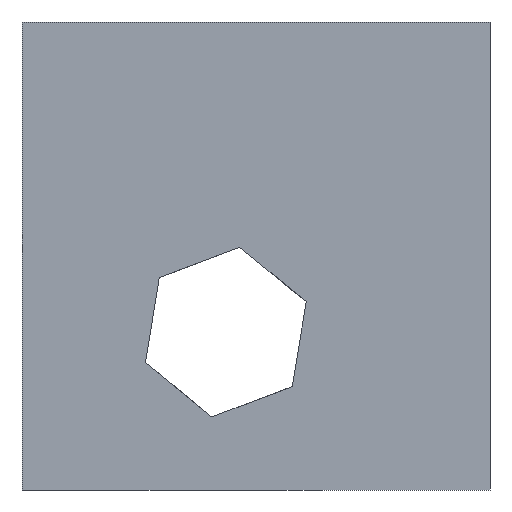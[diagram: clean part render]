
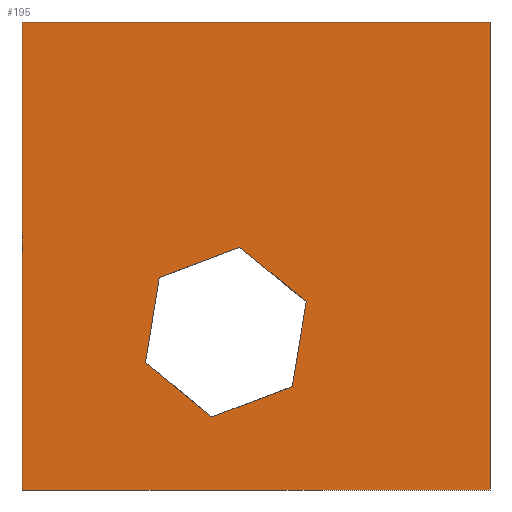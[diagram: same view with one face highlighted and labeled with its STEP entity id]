
A CAD part, left-side view. The second image highlights one B-rep face of the part: STEP entity #195.
In plain terms, the highlighted planar face has unit normal (-1, 0, 0).
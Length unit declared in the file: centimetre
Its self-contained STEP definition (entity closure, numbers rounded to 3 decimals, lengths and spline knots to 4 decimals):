
#2 = LINE ( 'NONE', #10, #261 ) ;
#10 = CARTESIAN_POINT ( 'NONE',  ( 0., 422.4021, 220.9731 ) ) ;
#14 = DIRECTION ( 'NONE',  ( 0., 0., -1. ) ) ;
#68 = ORIENTED_EDGE ( 'NONE', *, *, #672, .F. ) ;
#87 = CARTESIAN_POINT ( 'NONE',  ( 0., 1000., 1000. ) ) ;
#92 = CARTESIAN_POINT ( 'NONE',  ( 0., 594.2969, 156.1593 ) ) ;
#104 = DIRECTION ( 'NONE',  ( 0., 0., -1. ) ) ;
#110 = VECTOR ( 'NONE', #1080, 100. ) ;
#115 = EDGE_CURVE ( 'NONE', #1216, #780, #888, .T. ) ;
#155 = VECTOR ( 'NONE', #104, 100. ) ;
#164 = ORIENTED_EDGE ( 'NONE', *, *, #359, .F. ) ;
#195 = ADVANCED_FACE ( 'NONE', ( #417, #423 ), #1109, .F. ) ;
#208 = LINE ( 'NONE', #611, #155 ) ;
#210 = DIRECTION ( 'NONE',  ( 1., 0., 0. ) ) ;
#217 = VECTOR ( 'NONE', #878, 100. ) ;
#235 = CARTESIAN_POINT ( 'NONE',  ( 0., 392.585, 402.2452 ) ) ;
#256 = CARTESIAN_POINT ( 'NONE',  ( 0., 534.6627, 518.7037 ) ) ;
#257 = ORIENTED_EDGE ( 'NONE', *, *, #880, .T. ) ;
#261 = VECTOR ( 'NONE', #425, 100. ) ;
#282 = DIRECTION ( 'NONE',  ( 0., -0.936, 0.353 ) ) ;
#323 = VERTEX_POINT ( 'NONE', #430 ) ;
#333 = CARTESIAN_POINT ( 'NONE',  ( 0., 422.4021, 220.9731 ) ) ;
#342 = CARTESIAN_POINT ( 'NONE',  ( 0., 1000., 0. ) ) ;
#353 = CARTESIAN_POINT ( 'NONE',  ( 0., 0., 1000. ) ) ;
#356 = CARTESIAN_POINT ( 'NONE',  ( 0., 594.2969, 156.1593 ) ) ;
#359 = EDGE_CURVE ( 'NONE', #1237, #447, #1104, .T. ) ;
#370 = LINE ( 'NONE', #738, #436 ) ;
#376 = EDGE_LOOP ( 'NONE', ( #68, #533, #164, #982, #929, #448 ) ) ;
#378 = LINE ( 'NONE', #1092, #217 ) ;
#389 = EDGE_CURVE ( 'NONE', #447, #323, #370, .T. ) ;
#409 = CARTESIAN_POINT ( 'NONE',  ( 0., 1000., 1000. ) ) ;
#411 = CARTESIAN_POINT ( 'NONE',  ( 0., 706.5576, 453.89 ) ) ;
#417 = FACE_BOUND ( 'NONE', #376, .T. ) ;
#423 = FACE_OUTER_BOUND ( 'NONE', #1114, .T. ) ;
#425 = DIRECTION ( 'NONE',  ( 0., -0.162, 0.987 ) ) ;
#430 = CARTESIAN_POINT ( 'NONE',  ( 0., 706.5576, 453.89 ) ) ;
#436 = VECTOR ( 'NONE', #775, 100. ) ;
#447 = VERTEX_POINT ( 'NONE', #256 ) ;
#448 = ORIENTED_EDGE ( 'NONE', *, *, #614, .F. ) ;
#490 = LINE ( 'NONE', #342, #110 ) ;
#524 = EDGE_CURVE ( 'NONE', #777, #734, #1172, .T. ) ;
#533 = ORIENTED_EDGE ( 'NONE', *, *, #389, .F. ) ;
#537 = VECTOR ( 'NONE', #1200, 100. ) ;
#562 = VERTEX_POINT ( 'NONE', #1087 ) ;
#588 = EDGE_CURVE ( 'NONE', #1256, #777, #1189, .T. ) ;
#597 = VECTOR ( 'NONE', #797, 100. ) ;
#606 = VERTEX_POINT ( 'NONE', #1001 ) ;
#611 = CARTESIAN_POINT ( 'NONE',  ( 0., 1000., 1000. ) ) ;
#614 = EDGE_CURVE ( 'NONE', #562, #1216, #378, .T. ) ;
#672 = EDGE_CURVE ( 'NONE', #323, #562, #911, .T. ) ;
#692 = EDGE_CURVE ( 'NONE', #780, #1237, #2, .T. ) ;
#697 = CARTESIAN_POINT ( 'NONE',  ( 0., 0., 1000. ) ) ;
#715 = DIRECTION ( 'NONE',  ( 0., 0.773, 0.634 ) ) ;
#730 = ORIENTED_EDGE ( 'NONE', *, *, #588, .F. ) ;
#734 = VERTEX_POINT ( 'NONE', #922 ) ;
#738 = CARTESIAN_POINT ( 'NONE',  ( 0., 534.6627, 518.7037 ) ) ;
#775 = DIRECTION ( 'NONE',  ( 0., 0.936, -0.353 ) ) ;
#776 = ORIENTED_EDGE ( 'NONE', *, *, #524, .F. ) ;
#777 = VERTEX_POINT ( 'NONE', #353 ) ;
#780 = VERTEX_POINT ( 'NONE', #333 ) ;
#797 = DIRECTION ( 'NONE',  ( 0., 0., -1. ) ) ;
#878 = DIRECTION ( 'NONE',  ( 0., -0.773, -0.634 ) ) ;
#880 = EDGE_CURVE ( 'NONE', #606, #734, #490, .T. ) ;
#888 = LINE ( 'NONE', #92, #1235 ) ;
#911 = LINE ( 'NONE', #411, #537 ) ;
#922 = CARTESIAN_POINT ( 'NONE',  ( 0., 0., 0. ) ) ;
#923 = VECTOR ( 'NONE', #715, 100. ) ;
#928 = VECTOR ( 'NONE', #1184, 100. ) ;
#929 = ORIENTED_EDGE ( 'NONE', *, *, #115, .F. ) ;
#982 = ORIENTED_EDGE ( 'NONE', *, *, #692, .F. ) ;
#1001 = CARTESIAN_POINT ( 'NONE',  ( 0., 1000., 0. ) ) ;
#1065 = EDGE_CURVE ( 'NONE', #1256, #606, #208, .T. ) ;
#1080 = DIRECTION ( 'NONE',  ( 0., -1., 0. ) ) ;
#1087 = CARTESIAN_POINT ( 'NONE',  ( 0., 736.3747, 272.6178 ) ) ;
#1092 = CARTESIAN_POINT ( 'NONE',  ( 0., 736.3747, 272.6178 ) ) ;
#1104 = LINE ( 'NONE', #1212, #923 ) ;
#1109 = PLANE ( 'NONE',  #1194 ) ;
#1114 = EDGE_LOOP ( 'NONE', ( #257, #776, #730, #1203 ) ) ;
#1146 = CARTESIAN_POINT ( 'NONE',  ( 0., 1000., 1000. ) ) ;
#1172 = LINE ( 'NONE', #697, #597 ) ;
#1184 = DIRECTION ( 'NONE',  ( 0., -1., 0. ) ) ;
#1189 = LINE ( 'NONE', #87, #928 ) ;
#1194 = AXIS2_PLACEMENT_3D ( 'NONE', #409, #210, #14 ) ;
#1200 = DIRECTION ( 'NONE',  ( 0., 0.162, -0.987 ) ) ;
#1203 = ORIENTED_EDGE ( 'NONE', *, *, #1065, .T. ) ;
#1212 = CARTESIAN_POINT ( 'NONE',  ( 0., 392.585, 402.2452 ) ) ;
#1216 = VERTEX_POINT ( 'NONE', #356 ) ;
#1235 = VECTOR ( 'NONE', #282, 100. ) ;
#1237 = VERTEX_POINT ( 'NONE', #235 ) ;
#1256 = VERTEX_POINT ( 'NONE', #1146 ) ;
